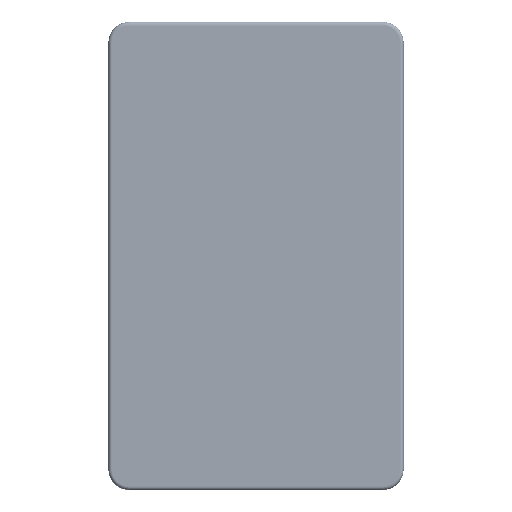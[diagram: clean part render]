
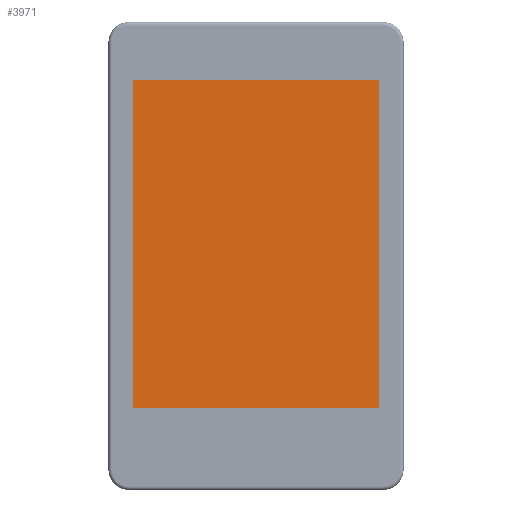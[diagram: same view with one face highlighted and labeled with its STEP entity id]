
A CAD part, top view. The second image highlights one B-rep face of the part: STEP entity #3971.
In plain terms, the highlighted planar face has unit normal (0, 0, 1).
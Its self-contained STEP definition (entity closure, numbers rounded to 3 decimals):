
#2932=DIRECTION('',(0.,-1.,0.));
#2933=VECTOR('',#2932,41.2);
#2934=CARTESIAN_POINT('',(-15.495,20.6,3.58));
#2935=LINE('',#2934,#2933);
#2939=DIRECTION('',(-1.,0.,0.));
#2940=VECTOR('',#2939,30.99);
#2941=CARTESIAN_POINT('',(15.495,20.6,3.58));
#2942=LINE('',#2941,#2940);
#2946=DIRECTION('',(0.,1.,0.));
#2947=VECTOR('',#2946,41.2);
#2948=CARTESIAN_POINT('',(15.495,-20.6,3.58));
#2949=LINE('',#2948,#2947);
#2953=DIRECTION('',(1.,0.,0.));
#2954=VECTOR('',#2953,30.99);
#2955=CARTESIAN_POINT('',(-15.495,-20.6,3.58));
#2956=LINE('',#2955,#2954);
#3633=CARTESIAN_POINT('',(-15.495,20.6,3.58));
#3634=CARTESIAN_POINT('',(-15.495,-20.6,3.58));
#3635=VERTEX_POINT('',#3633);
#3636=VERTEX_POINT('',#3634);
#3637=CARTESIAN_POINT('',(15.495,-20.6,3.58));
#3638=VERTEX_POINT('',#3637);
#3639=CARTESIAN_POINT('',(15.495,20.6,3.58));
#3640=VERTEX_POINT('',#3639);
#3960=CARTESIAN_POINT('',(0.,0.,3.58));
#3961=DIRECTION('',(0.,0.,1.));
#3962=DIRECTION('',(1.,0.,0.));
#3963=AXIS2_PLACEMENT_3D('',#3960,#3961,#3962);
#3964=PLANE('',#3963);
#3965=ORIENTED_EDGE('',*,*,#3912,.F.);
#3966=ORIENTED_EDGE('',*,*,#3927,.F.);
#3967=ORIENTED_EDGE('',*,*,#3941,.F.);
#3968=ORIENTED_EDGE('',*,*,#3954,.F.);
#3969=EDGE_LOOP('',(#3965,#3966,#3967,#3968));
#3970=FACE_OUTER_BOUND('',#3969,.F.);
#3971=ADVANCED_FACE('',(#3970),#3964,.T.);
#3912=EDGE_CURVE('',#3635,#3636,#2935,.T.);
#3927=EDGE_CURVE('',#3640,#3635,#2942,.T.);
#3941=EDGE_CURVE('',#3638,#3640,#2949,.T.);
#3954=EDGE_CURVE('',#3636,#3638,#2956,.T.);
